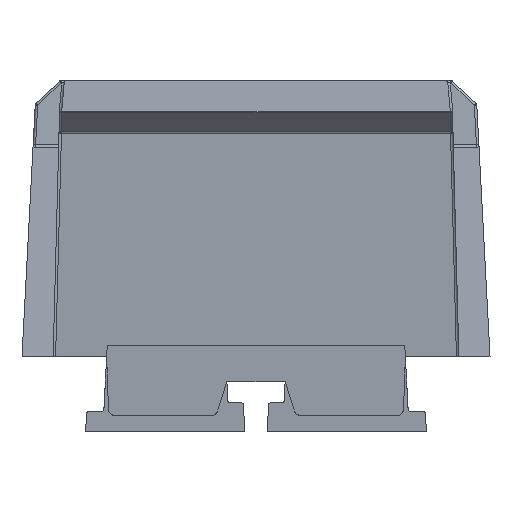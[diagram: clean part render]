
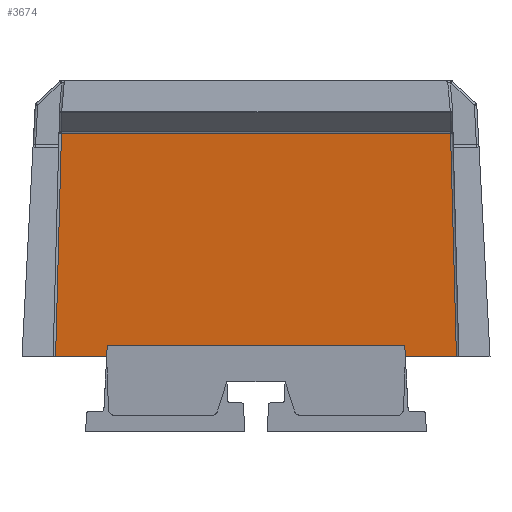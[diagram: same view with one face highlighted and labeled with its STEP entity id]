
A CAD part, left-side view. The second image highlights one B-rep face of the part: STEP entity #3674.
In plain terms, the highlighted planar face has unit normal (-0.996, 0, -0.087).
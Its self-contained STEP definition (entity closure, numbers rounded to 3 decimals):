
#11=DIRECTION('',(0.,-1.,0.));
#12=VECTOR('',#11,4.1);
#13=CARTESIAN_POINT('',(32.683,-12.,0.));
#14=LINE('',#13,#12);
#401=DIRECTION('',(-0.087,-0.026,0.996));
#402=VECTOR('',#401,18.022);
#403=CARTESIAN_POINT('',(32.683,16.1,0.));
#404=LINE('',#403,#402);
#405=DIRECTION('',(0.,-1.,0.));
#406=VECTOR('',#405,31.261);
#407=CARTESIAN_POINT('',(31.112,15.63,17.948));
#408=LINE('',#407,#406);
#409=DIRECTION('',(0.087,-0.026,-0.996));
#410=VECTOR('',#409,18.022);
#411=CARTESIAN_POINT('',(31.112,-15.63,17.948));
#412=LINE('',#411,#410);
#413=DIRECTION('',(0.,1.,0.));
#414=VECTOR('',#413,23.9);
#415=CARTESIAN_POINT('',(32.6,-11.95,0.95));
#416=LINE('',#415,#414);
#417=DIRECTION('',(0.,1.,0.));
#418=VECTOR('',#417,4.1);
#419=CARTESIAN_POINT('',(32.683,12.,0.));
#420=LINE('',#419,#418);
#505=DIRECTION('',(0.087,-0.052,-0.995));
#506=VECTOR('',#505,0.955);
#507=CARTESIAN_POINT('',(32.6,-11.95,0.95));
#508=LINE('',#507,#506);
#2639=DIRECTION('',(-0.087,-0.052,0.995));
#2640=VECTOR('',#2639,0.955);
#2641=CARTESIAN_POINT('',(32.683,12.,0.));
#2642=LINE('',#2641,#2640);
#2705=CARTESIAN_POINT('',(31.112,15.63,17.948));
#2706=VERTEX_POINT('',#2705);
#2709=CARTESIAN_POINT('',(32.683,16.1,0.));
#2710=VERTEX_POINT('',#2709);
#2711=CARTESIAN_POINT('',(31.112,-15.63,17.948));
#2712=CARTESIAN_POINT('',(32.683,-16.1,0.));
#2713=VERTEX_POINT('',#2711);
#2714=VERTEX_POINT('',#2712);
#2732=CARTESIAN_POINT('',(32.6,11.95,0.95));
#2734=VERTEX_POINT('',#2732);
#2735=CARTESIAN_POINT('',(32.683,12.,0.));
#2736=VERTEX_POINT('',#2735);
#2737=CARTESIAN_POINT('',(32.6,-11.95,0.95));
#2739=VERTEX_POINT('',#2737);
#2741=CARTESIAN_POINT('',(32.683,-12.,0.));
#2742=VERTEX_POINT('',#2741);
#3654=CARTESIAN_POINT('',(30.76,-20.808,21.982));
#3655=DIRECTION('',(0.996,0.,0.087));
#3656=DIRECTION('',(0.,1.,0.));
#3657=AXIS2_PLACEMENT_3D('',#3654,#3655,#3656);
#3658=PLANE('',#3657);
#3660=ORIENTED_EDGE('',*,*,#3659,.T.);
#3662=ORIENTED_EDGE('',*,*,#3661,.T.);
#3663=ORIENTED_EDGE('',*,*,#3645,.T.);
#3664=ORIENTED_EDGE('',*,*,#3185,.F.);
#3666=ORIENTED_EDGE('',*,*,#3665,.F.);
#3668=ORIENTED_EDGE('',*,*,#3667,.T.);
#3670=ORIENTED_EDGE('',*,*,#3669,.F.);
#3671=ORIENTED_EDGE('',*,*,#3217,.T.);
#3672=EDGE_LOOP('',(#3660,#3662,#3663,#3664,#3666,#3668,#3670,#3671));
#3673=FACE_OUTER_BOUND('',#3672,.F.);
#3674=ADVANCED_FACE('',(#3673),#3658,.F.);
#3185=EDGE_CURVE('',#2742,#2714,#14,.T.);
#3217=EDGE_CURVE('',#2736,#2710,#420,.T.);
#3645=EDGE_CURVE('',#2713,#2714,#412,.T.);
#3659=EDGE_CURVE('',#2710,#2706,#404,.T.);
#3661=EDGE_CURVE('',#2706,#2713,#408,.T.);
#3665=EDGE_CURVE('',#2739,#2742,#508,.T.);
#3667=EDGE_CURVE('',#2739,#2734,#416,.T.);
#3669=EDGE_CURVE('',#2736,#2734,#2642,.T.);
